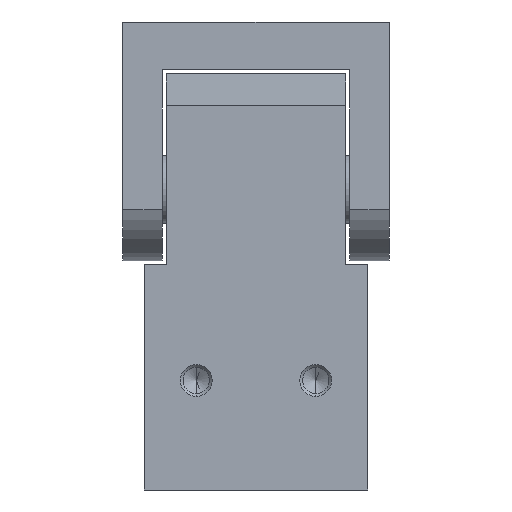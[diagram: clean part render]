
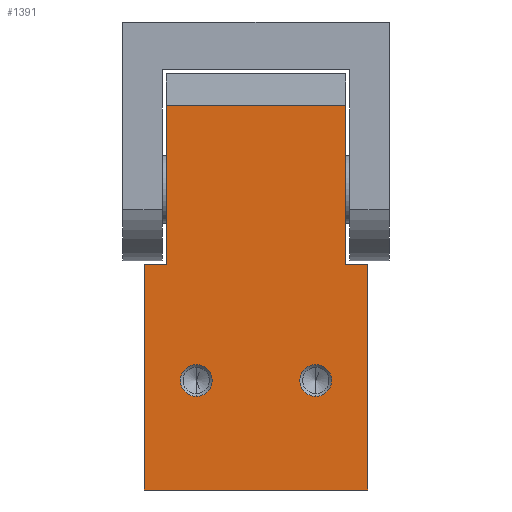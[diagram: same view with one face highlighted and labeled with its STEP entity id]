
A CAD part, left-side view. The second image highlights one B-rep face of the part: STEP entity #1391.
In plain terms, the highlighted planar face has unit normal (-1, 0, 0).
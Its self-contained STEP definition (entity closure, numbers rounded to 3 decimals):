
#146 = EDGE_LOOP ( 'NONE', ( #4569, #6497 ) ) ;
#147 = AXIS2_PLACEMENT_3D ( 'NONE', #3888, #2253, #4887 ) ;
#437 = VERTEX_POINT ( 'NONE', #3107 ) ;
#490 = DIRECTION ( 'NONE',  ( 0., 0., 1. ) ) ;
#525 = CARTESIAN_POINT ( 'NONE',  ( -40., 28., 0. ) ) ;
#574 = LINE ( 'NONE', #6071, #4591 ) ;
#662 = CARTESIAN_POINT ( 'NONE',  ( -40., 15., 31.5 ) ) ;
#681 = VECTOR ( 'NONE', #5274, 1000. ) ;
#718 = VERTEX_POINT ( 'NONE', #4537 ) ;
#740 = EDGE_CURVE ( 'NONE', #2467, #3327, #985, .T. ) ;
#814 = CARTESIAN_POINT ( 'NONE',  ( -40., 15., 23.5 ) ) ;
#985 = LINE ( 'NONE', #3976, #2522 ) ;
#1005 = DIRECTION ( 'NONE',  ( 0., -1., 0. ) ) ;
#1104 = VECTOR ( 'NONE', #2878, 1000. ) ;
#1190 = DIRECTION ( 'NONE',  ( 0., 0., -1. ) ) ;
#1232 = DIRECTION ( 'NONE',  ( 0., 0., -1. ) ) ;
#1238 = DIRECTION ( 'NONE',  ( 1., 0., 0. ) ) ;
#1278 = FACE_BOUND ( 'NONE', #2356, .T. ) ;
#1289 = DIRECTION ( 'NONE',  ( 1., 0., 0. ) ) ;
#1295 = VERTEX_POINT ( 'NONE', #525 ) ;
#1310 = CARTESIAN_POINT ( 'NONE',  ( -40., -22.5, 56.5 ) ) ;
#1376 = LINE ( 'NONE', #3528, #6330 ) ;
#1379 = CARTESIAN_POINT ( 'NONE',  ( -40., 28., 56.5 ) ) ;
#1391 = ADVANCED_FACE ( 'NONE', ( #2695, #1278, #1706 ), #1807, .F. ) ;
#1418 = CARTESIAN_POINT ( 'NONE',  ( -40., 15., 27.5 ) ) ;
#1428 = VERTEX_POINT ( 'NONE', #814 ) ;
#1465 = EDGE_CURVE ( 'NONE', #718, #1295, #6477, .T. ) ;
#1473 = DIRECTION ( 'NONE',  ( 0., -1., 0. ) ) ;
#1691 = VERTEX_POINT ( 'NONE', #662 ) ;
#1706 = FACE_BOUND ( 'NONE', #146, .T. ) ;
#1730 = CARTESIAN_POINT ( 'NONE',  ( -40., 22.5, 56.5 ) ) ;
#1807 = PLANE ( 'NONE',  #3255 ) ;
#1837 = DIRECTION ( 'NONE',  ( 0., 1., 0. ) ) ;
#2058 = CIRCLE ( 'NONE', #3749, 4. ) ;
#2099 = DIRECTION ( 'NONE',  ( 1., 0., 0. ) ) ;
#2206 = VERTEX_POINT ( 'NONE', #2976 ) ;
#2230 = CARTESIAN_POINT ( 'NONE',  ( -40., 28., 56.5 ) ) ;
#2253 = DIRECTION ( 'NONE',  ( 1., 0., 0. ) ) ;
#2356 = EDGE_LOOP ( 'NONE', ( #4252, #4002 ) ) ;
#2414 = VECTOR ( 'NONE', #5805, 1000. ) ;
#2435 = ORIENTED_EDGE ( 'NONE', *, *, #2461, .F. ) ;
#2461 = EDGE_CURVE ( 'NONE', #2206, #2737, #6346, .T. ) ;
#2467 = VERTEX_POINT ( 'NONE', #1730 ) ;
#2510 = VERTEX_POINT ( 'NONE', #3264 ) ;
#2522 = VECTOR ( 'NONE', #490, 1000. ) ;
#2641 = EDGE_CURVE ( 'NONE', #718, #2467, #1376, .T. ) ;
#2695 = FACE_OUTER_BOUND ( 'NONE', #6248, .T. ) ;
#2737 = VERTEX_POINT ( 'NONE', #4556 ) ;
#2878 = DIRECTION ( 'NONE',  ( 0., 0., 1. ) ) ;
#2971 = ORIENTED_EDGE ( 'NONE', *, *, #1465, .T. ) ;
#2976 = CARTESIAN_POINT ( 'NONE',  ( -40., -22.5, 56.5 ) ) ;
#3022 = CIRCLE ( 'NONE', #147, 4. ) ;
#3107 = CARTESIAN_POINT ( 'NONE',  ( -40., -28., 0. ) ) ;
#3185 = CARTESIAN_POINT ( 'NONE',  ( -40., -28., 56.5 ) ) ;
#3194 = CARTESIAN_POINT ( 'NONE',  ( -40., 15., 27.5 ) ) ;
#3220 = AXIS2_PLACEMENT_3D ( 'NONE', #3194, #2099, #1232 ) ;
#3255 = AXIS2_PLACEMENT_3D ( 'NONE', #4291, #1238, #1837 ) ;
#3264 = CARTESIAN_POINT ( 'NONE',  ( -40., -22.5, 96.5 ) ) ;
#3292 = DIRECTION ( 'NONE',  ( 0., 0., -1. ) ) ;
#3327 = VERTEX_POINT ( 'NONE', #5230 ) ;
#3433 = DIRECTION ( 'NONE',  ( 0., 0., -1. ) ) ;
#3468 = VERTEX_POINT ( 'NONE', #3847 ) ;
#3528 = CARTESIAN_POINT ( 'NONE',  ( -40., 28., 56.5 ) ) ;
#3639 = LINE ( 'NONE', #3185, #5046 ) ;
#3749 = AXIS2_PLACEMENT_3D ( 'NONE', #5795, #6436, #3292 ) ;
#3847 = CARTESIAN_POINT ( 'NONE',  ( -40., -15., 23.5 ) ) ;
#3873 = VERTEX_POINT ( 'NONE', #5336 ) ;
#3888 = CARTESIAN_POINT ( 'NONE',  ( -40., -15., 27.5 ) ) ;
#3976 = CARTESIAN_POINT ( 'NONE',  ( -40., 22.5, 56.5 ) ) ;
#4002 = ORIENTED_EDGE ( 'NONE', *, *, #5147, .T. ) ;
#4159 = ORIENTED_EDGE ( 'NONE', *, *, #740, .F. ) ;
#4205 = VECTOR ( 'NONE', #3433, 1000. ) ;
#4252 = ORIENTED_EDGE ( 'NONE', *, *, #5113, .T. ) ;
#4284 = ORIENTED_EDGE ( 'NONE', *, *, #4487, .T. ) ;
#4291 = CARTESIAN_POINT ( 'NONE',  ( -40., 28., 56.5 ) ) ;
#4295 = EDGE_CURVE ( 'NONE', #2206, #2510, #4928, .T. ) ;
#4487 = EDGE_CURVE ( 'NONE', #1295, #437, #574, .T. ) ;
#4537 = CARTESIAN_POINT ( 'NONE',  ( -40., 28., 56.5 ) ) ;
#4556 = CARTESIAN_POINT ( 'NONE',  ( -40., -28., 56.5 ) ) ;
#4569 = ORIENTED_EDGE ( 'NONE', *, *, #6092, .T. ) ;
#4583 = EDGE_CURVE ( 'NONE', #1428, #1691, #5228, .T. ) ;
#4591 = VECTOR ( 'NONE', #1005, 1000. ) ;
#4710 = ORIENTED_EDGE ( 'NONE', *, *, #5745, .F. ) ;
#4791 = ORIENTED_EDGE ( 'NONE', *, *, #5125, .F. ) ;
#4830 = ORIENTED_EDGE ( 'NONE', *, *, #4295, .T. ) ;
#4887 = DIRECTION ( 'NONE',  ( 0., 0., -1. ) ) ;
#4928 = LINE ( 'NONE', #1310, #1104 ) ;
#5046 = VECTOR ( 'NONE', #1190, 1000. ) ;
#5113 = EDGE_CURVE ( 'NONE', #3873, #3468, #3022, .T. ) ;
#5125 = EDGE_CURVE ( 'NONE', #3327, #2510, #6401, .T. ) ;
#5147 = EDGE_CURVE ( 'NONE', #3468, #3873, #2058, .T. ) ;
#5228 = CIRCLE ( 'NONE', #3220, 4. ) ;
#5230 = CARTESIAN_POINT ( 'NONE',  ( -40., 22.5, 96.5 ) ) ;
#5274 = DIRECTION ( 'NONE',  ( 0., -1., 0. ) ) ;
#5303 = ORIENTED_EDGE ( 'NONE', *, *, #2641, .F. ) ;
#5336 = CARTESIAN_POINT ( 'NONE',  ( -40., -15., 31.5 ) ) ;
#5363 = AXIS2_PLACEMENT_3D ( 'NONE', #1418, #1289, #5888 ) ;
#5465 = CIRCLE ( 'NONE', #5363, 4. ) ;
#5745 = EDGE_CURVE ( 'NONE', #2737, #437, #3639, .T. ) ;
#5795 = CARTESIAN_POINT ( 'NONE',  ( -40., -15., 27.5 ) ) ;
#5805 = DIRECTION ( 'NONE',  ( 0., -1., 0. ) ) ;
#5863 = CARTESIAN_POINT ( 'NONE',  ( -40., 22.5, 96.5 ) ) ;
#5888 = DIRECTION ( 'NONE',  ( 0., 0., -1. ) ) ;
#6071 = CARTESIAN_POINT ( 'NONE',  ( -40., 28., 0. ) ) ;
#6092 = EDGE_CURVE ( 'NONE', #1691, #1428, #5465, .T. ) ;
#6248 = EDGE_LOOP ( 'NONE', ( #4284, #4710, #2435, #4830, #4791, #4159, #5303, #2971 ) ) ;
#6330 = VECTOR ( 'NONE', #1473, 1000. ) ;
#6346 = LINE ( 'NONE', #2230, #2414 ) ;
#6401 = LINE ( 'NONE', #5863, #681 ) ;
#6436 = DIRECTION ( 'NONE',  ( 1., 0., 0. ) ) ;
#6477 = LINE ( 'NONE', #1379, #4205 ) ;
#6497 = ORIENTED_EDGE ( 'NONE', *, *, #4583, .T. ) ;
